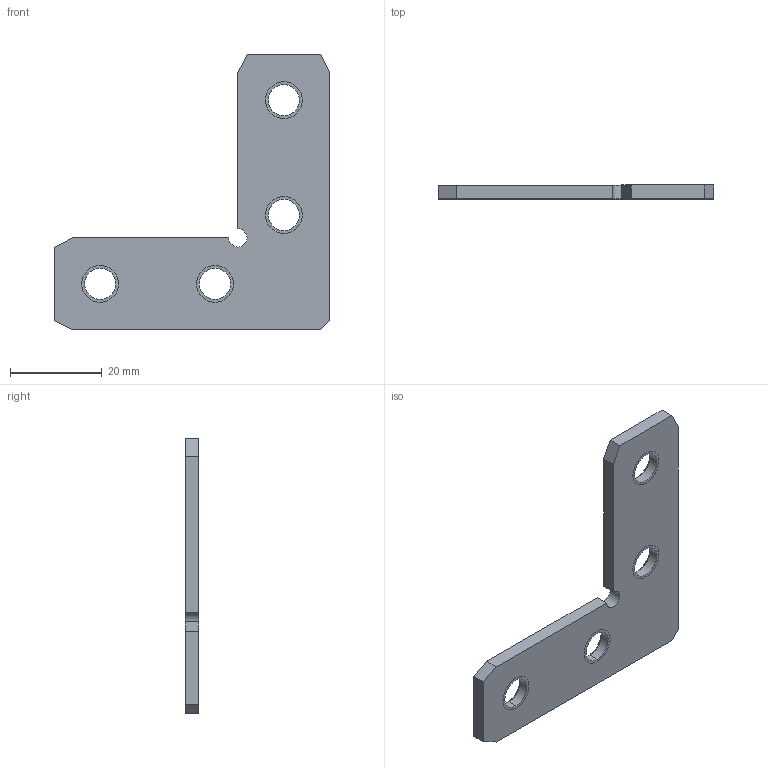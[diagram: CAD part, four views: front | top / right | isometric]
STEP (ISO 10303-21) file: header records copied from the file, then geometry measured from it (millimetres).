
FILE_DESCRIPTION((''),'2;1');
FILE_NAME('GIE9010','2002-12-27T',('Lipro doo'),('Lipro d.o.o.'),'PRO/ENGINEER BY PARAMETRIC TECHNOLOGY CORPORATION, 2001150','PRO/ENGINEER BY PARAMETRIC TECHNOLOGY CORPORATION, 2001150','');
FILE_SCHEMA(('CONFIG_CONTROL_DESIGN'));
Length unit declared in the file: millimetre
Products named in the file (1): GIE9010
Bounding box: 60 x 3 x 60 mm (x, y, z)
Volume: 5448.5 mm3; surface area: 4863.1 mm2
Topology: 1 solids, 5 shells, 38 faces, 100 edges, 64 vertices
Faces by surface type: cylinder 17, plane 13, cone 8
Entity records: 1233 total; most frequent: DIRECTION 220, CARTESIAN_POINT 203, ORIENTED_EDGE 184, EDGE_CURVE 100, AXIS2_PLACEMENT_3D 81, VERTEX_POINT 64, VECTOR 58, LINE 58
